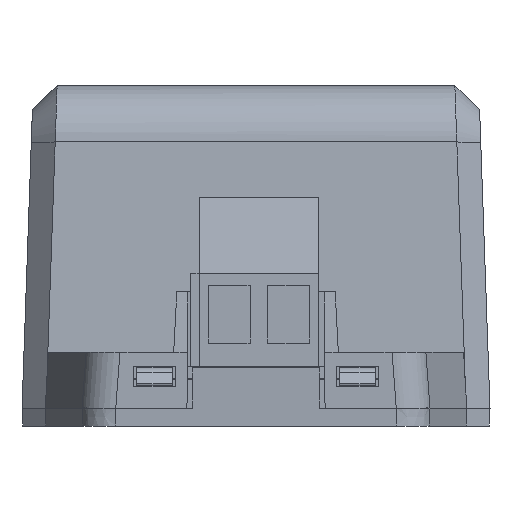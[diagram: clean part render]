
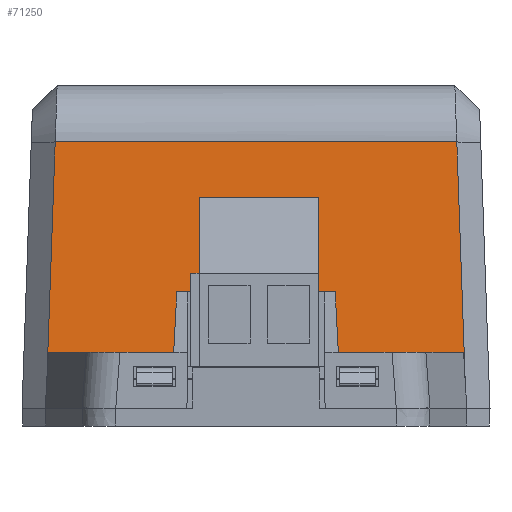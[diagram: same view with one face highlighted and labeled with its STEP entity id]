
A CAD part, left-side view. The second image highlights one B-rep face of the part: STEP entity #71250.
In plain terms, the highlighted planar face has unit normal (-0.998, 0, 0.061).
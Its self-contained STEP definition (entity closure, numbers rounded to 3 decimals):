
#70220=CARTESIAN_POINT('',(22.986,16.306,-18.));
#70230=DIRECTION('',(-0.998,0.,0.061));
#70240=DIRECTION('',(0.061,0.,0.998));
#70250=AXIS2_PLACEMENT_3D('',#70220,#70230,#70240);
#70260=PLANE('',#70250);
#70270=CARTESIAN_POINT('',(22.986,18.319,-18.));
#70280=DIRECTION('',(0.061,0.052,
0.997));
#70290=VECTOR('',#70280,1.);
#70300=LINE('',#70270,#70290);
#70310=CARTESIAN_POINT('',(22.942,18.282,
-18.709));
#70320=VERTEX_POINT('',#70310);
#70330=CARTESIAN_POINT('',(23.09,18.408,-16.3));
#70340=VERTEX_POINT('',#70330);
#70350=EDGE_CURVE('',#70320,#70340,#70300,.T.);
#70360=ORIENTED_EDGE('',*,*,#70350,.F.);
#70370=CARTESIAN_POINT('',(23.09,42.006,-16.3));
#70380=DIRECTION('',(0.,-1.,0.));
#70390=VECTOR('',#70380,1.);
#70400=LINE('',#70370,#70390);
#70410=CARTESIAN_POINT('',(23.09,28.906,-16.3));
#70420=VERTEX_POINT('',#70410);
#70430=EDGE_CURVE('',#70420,#70340,#70400,.T.);
#70440=ORIENTED_EDGE('',*,*,#70430,.T.);
#70450=CARTESIAN_POINT('',(22.946,28.783,
-18.651));
#70460=DIRECTION('',(0.061,0.052,
0.997));
#70470=VECTOR('',#70460,1.);
#70480=LINE('',#70450,#70470);
#70490=CARTESIAN_POINT('',(23.398,29.17,
-11.265));
#70500=VERTEX_POINT('',#70490);
#70510=EDGE_CURVE('',#70420,#70500,#70480,.T.);
#70520=ORIENTED_EDGE('',*,*,#70510,.F.);
#70530=CARTESIAN_POINT('',(23.398,41.506,
-11.265));
#70540=DIRECTION('',(0.,-1.,0.));
#70550=VECTOR('',#70540,1.);
#70560=LINE('',#70530,#70550);
#70570=CARTESIAN_POINT('',(23.398,30.106,
-11.265));
#70580=VERTEX_POINT('',#70570);
#70590=EDGE_CURVE('',#70580,#70500,#70560,.T.);
#70600=ORIENTED_EDGE('',*,*,#70590,.T.);
#70610=CARTESIAN_POINT('',(23.398,16.306,
-11.265));
#70620=DIRECTION('',(0.,1.,0.));
#70630=VECTOR('',#70620,1.);
#70640=LINE('',#70610,#70630);
#70650=CARTESIAN_POINT('',(23.398,41.506,
-11.265));
#70660=VERTEX_POINT('',#70650);
#70670=EDGE_CURVE('',#70580,#70660,#70640,.T.);
#70680=ORIENTED_EDGE('',*,*,#70670,.F.);
#70690=CARTESIAN_POINT('',(23.398,42.506,
-11.265));
#70700=DIRECTION('',(0.,-1.,0.));
#70710=VECTOR('',#70700,1.);
#70720=LINE('',#70690,#70710);
#70730=CARTESIAN_POINT('',(23.398,42.442,
-11.265));
#70740=VERTEX_POINT('',#70730);
#70750=EDGE_CURVE('',#70740,#70660,#70720,.T.);
#70760=ORIENTED_EDGE('',*,*,#70750,.T.);
#70770=CARTESIAN_POINT('',(23.07,42.723,
-16.621));
#70780=DIRECTION('',(-0.061,0.052,
-0.997));
#70790=VECTOR('',#70780,1.);
#70800=LINE('',#70770,#70790);
#70810=CARTESIAN_POINT('',(23.09,42.706,-16.3));
#70820=VERTEX_POINT('',#70810);
#70830=EDGE_CURVE('',#70740,#70820,#70800,.T.);
#70840=ORIENTED_EDGE('',*,*,#70830,.F.);
#70850=CARTESIAN_POINT('',(23.09,42.006,-16.3));
#70860=DIRECTION('',(0.,-1.,0.));
#70870=VECTOR('',#70860,1.);
#70880=LINE('',#70850,#70870);
#70890=CARTESIAN_POINT('',(23.09,53.204,-16.3));
#70900=VERTEX_POINT('',#70890);
#70910=EDGE_CURVE('',#70900,#70820,#70880,.T.);
#70920=ORIENTED_EDGE('',*,*,#70910,.T.);
#70930=CARTESIAN_POINT('',(22.986,53.293,-18.));
#70940=DIRECTION('',(-0.061,0.052,
-0.997));
#70950=VECTOR('',#70940,1.);
#70960=LINE('',#70930,#70950);
#70970=CARTESIAN_POINT('',(22.942,53.329,
-18.709));
#70980=VERTEX_POINT('',#70970);
#70990=EDGE_CURVE('',#70900,#70980,#70960,.T.);
#71000=ORIENTED_EDGE('',*,*,#70990,.F.);
#71010=CARTESIAN_POINT('',(24.166,52.631,
1.305));
#71020=DIRECTION('',(-0.061,0.035,
-0.998));
#71030=VECTOR('',#71020,1.);
#71040=LINE('',#71010,#71030);
#71050=CARTESIAN_POINT('',(24.166,52.631,
1.305));
#71060=VERTEX_POINT('',#71050);
#71070=EDGE_CURVE('',#71060,#70980,#71040,.T.);
#71080=ORIENTED_EDGE('',*,*,#71070,.T.);
#71090=CARTESIAN_POINT('',(24.166,42.006,
1.305));
#71100=DIRECTION('',(0.,1.,0.));
#71110=VECTOR('',#71100,1.);
#71120=LINE('',#71090,#71110);
#71130=CARTESIAN_POINT('',(24.166,18.981,
1.305));
#71140=VERTEX_POINT('',#71130);
#71150=EDGE_CURVE('',#71140,#71060,#71120,.T.);
#71160=ORIENTED_EDGE('',*,*,#71150,.T.);
#71170=CARTESIAN_POINT('',(22.942,18.282,
-18.709));
#71180=DIRECTION('',(0.061,0.035,
0.998));
#71190=VECTOR('',#71180,1.);
#71200=LINE('',#71170,#71190);
#71210=EDGE_CURVE('',#70320,#71140,#71200,.T.);
#71220=ORIENTED_EDGE('',*,*,#71210,.T.);
#71230=EDGE_LOOP('',(#71220,#71160,#71080,#71000,#70920,#70840,#70760,
#70680,#70600,#70520,#70440,#70360));
#71240=FACE_OUTER_BOUND('',#71230,.T.);
#71250=ADVANCED_FACE('',(#71240),#70260,.T.);
